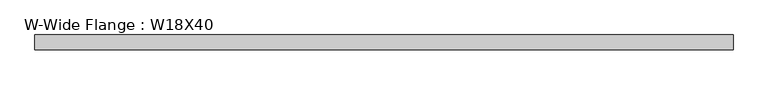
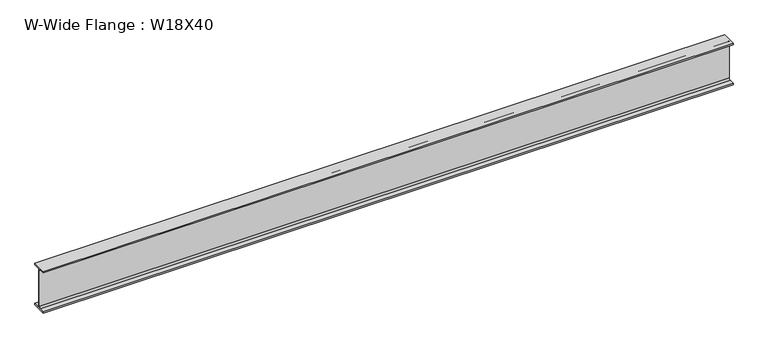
"""IFC4 building model written with IfcOpenShell, lengths in millimetres: beam geometry, W-Wide Flange : W18X40."""

from ifc_helpers import new_model, si_unit, point, frame, frame_2d, origin, place, context, project, spatial, polyline, circle_curve, trimmed, segment, composite_curve, outline, extrude, source, transform, mapped, element, save


def w_wide_flange_w18x40_132b15f8(model_context):
    return source(origin(), model_context, "Body", "SweptSolid", [
        extrude(outline(composite_curve([segment(polyline([(76.454, -213.995), (76.454, -227.33), (-76.454, -227.33), (-76.454, -213.995), (-20.828, -213.995)]), True, "CONTINUOUS"), segment(trimmed(circle_curve(frame_2d((-20.828, -197.1675)), 16.8275), [point((-20.828, -213.995))], [point((-4.0005, -197.1675))], True, "CARTESIAN"), True, "CONTINUOUS"), segment(polyline([(-4.0005, -197.1675), (-4.0005, 197.1675)]), True, "CONTINUOUS"), segment(trimmed(circle_curve(frame_2d((-20.828, 197.1675)), 16.8275), [point((-4.0005, 197.1675))], [point((-20.828, 213.995))], True, "CARTESIAN"), True, "CONTINUOUS"), segment(polyline([(-20.828, 213.995), (-76.454, 213.995), (-76.454, 227.33), (76.454, 227.33), (76.454, 213.995), (20.828, 213.995)]), True, "CONTINUOUS"), segment(trimmed(circle_curve(frame_2d((20.828, 197.1675)), 16.8275), [point((20.828, 213.995))], [point((4.0005, 197.1675))], True, "CARTESIAN"), True, "CONTINUOUS"), segment(polyline([(4.0005, 197.1675), (4.0005, -197.1675)]), True, "CONTINUOUS"), segment(trimmed(circle_curve(frame_2d((20.828, -197.1675)), 16.8275), [point((4.0005, -197.1675))], [point((20.828, -213.995))], True, "CARTESIAN"), True, "CONTINUOUS"), segment(polyline([(20.828, -213.995), (76.454, -213.995)]), True, "CONTINUOUS")], self_intersect=False)), frame((-3587.5463652, 0.0, 0.0), z_axis=(1.0, 0.0, 0.0), x_axis=(0.0, 1.0, 0.0)), (0.0, 0.0, 1.0), 7175.5),
    ])


if __name__ == "__main__":
    model = new_model("IFC4")
    model_context = context("Model", 3, world=origin())
    ifc_project = project(units=[si_unit("LENGTHUNIT", "METRE", prefix="MILLI")], contexts=[model_context])
    site = spatial("IfcSite", under=ifc_project)
    building = spatial("IfcBuilding", under=site)
    placement = place(None, origin())
    w_wide_flange_w18x40_shape = w_wide_flange_w18x40_132b15f8(model_context)
    element("IfcBeam", 1, ObjectType="W-Wide Flange : W18X40", at=placement, inside=building, context=model_context, shape_type="MappedRepresentation", body=[
        mapped(w_wide_flange_w18x40_shape, transform((0.0, 0.0, 0.0), x_axis=(1.0, 0.0, 0.0), y_axis=(0.0, 1.0, 0.0), z_axis=(0.0, 0.0, 1.0))),
    ])
    save(model, "model.ifc")
